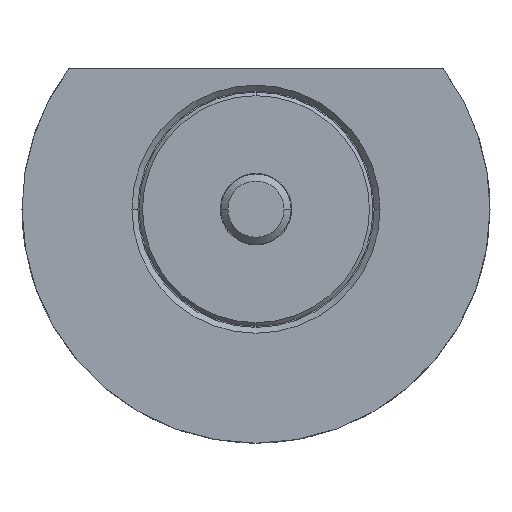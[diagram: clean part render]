
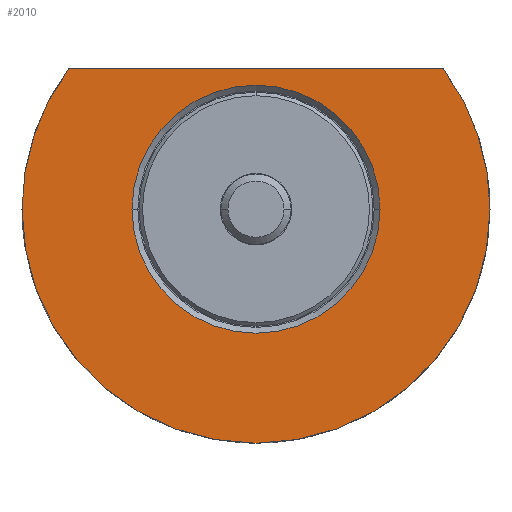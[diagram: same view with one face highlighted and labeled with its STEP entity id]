
A CAD part, front view. The second image highlights one B-rep face of the part: STEP entity #2010.
In plain terms, the highlighted planar face has unit normal (0, -1, 0).
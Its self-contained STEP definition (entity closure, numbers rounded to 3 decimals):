
#8 = EDGE_CURVE ( 'NONE', #1715, #1504, #1705, .T. ) ;
#125 = DIRECTION ( 'NONE',  ( 0., 1., 0. ) ) ;
#147 = CARTESIAN_POINT ( 'NONE',  ( -10.6, -10., 0. ) ) ;
#204 = ORIENTED_EDGE ( 'NONE', *, *, #8, .F. ) ;
#215 = CARTESIAN_POINT ( 'NONE',  ( 0., -10., 0. ) ) ;
#334 = FACE_BOUND ( 'NONE', #1475, .T. ) ;
#338 = EDGE_CURVE ( 'NONE', #1504, #1435, #1509, .T. ) ;
#407 = CARTESIAN_POINT ( 'NONE',  ( 10.6, -10., 0. ) ) ;
#467 = EDGE_CURVE ( 'NONE', #1972, #544, #898, .T. ) ;
#513 = DIRECTION ( 'NONE',  ( 1., 0., 0. ) ) ;
#527 = EDGE_CURVE ( 'NONE', #544, #1972, #1168, .T. ) ;
#544 = VERTEX_POINT ( 'NONE', #407 ) ;
#599 = AXIS2_PLACEMENT_3D ( 'NONE', #2002, #1811, #1209 ) ;
#716 = AXIS2_PLACEMENT_3D ( 'NONE', #215, #815, #1646 ) ;
#726 = ORIENTED_EDGE ( 'NONE', *, *, #467, .T. ) ;
#815 = DIRECTION ( 'NONE',  ( 0., 1., 0. ) ) ;
#832 = CARTESIAN_POINT ( 'NONE',  ( -10.6, -10., 11.999 ) ) ;
#841 = CARTESIAN_POINT ( 'NONE',  ( 0., -10., 0. ) ) ;
#888 = CARTESIAN_POINT ( 'NONE',  ( -20., -10., 0. ) ) ;
#898 = CIRCLE ( 'NONE', #1763, 10.6 ) ;
#942 = ORIENTED_EDGE ( 'NONE', *, *, #338, .F. ) ;
#976 = FACE_OUTER_BOUND ( 'NONE', #1535, .T. ) ;
#1080 = EDGE_CURVE ( 'NONE', #2584, #1435, #2215, .T. ) ;
#1098 = CARTESIAN_POINT ( 'NONE',  ( 0., -10., 0. ) ) ;
#1109 = ORIENTED_EDGE ( 'NONE', *, *, #1919, .F. ) ;
#1120 = DIRECTION ( 'NONE',  ( 0., 1., 0. ) ) ;
#1155 = CARTESIAN_POINT ( 'NONE',  ( 20., -10., 0. ) ) ;
#1164 = PLANE ( 'NONE',  #2603 ) ;
#1168 = CIRCLE ( 'NONE', #599, 10.6 ) ;
#1191 = DIRECTION ( 'NONE',  ( 0., -1., 0. ) ) ;
#1209 = DIRECTION ( 'NONE',  ( -1., 0., 0. ) ) ;
#1218 = DIRECTION ( 'NONE',  ( -1., 0., 0. ) ) ;
#1255 = VECTOR ( 'NONE', #1218, 1000. ) ;
#1435 = VERTEX_POINT ( 'NONE', #1797 ) ;
#1462 = ORIENTED_EDGE ( 'NONE', *, *, #1080, .T. ) ;
#1475 = EDGE_LOOP ( 'NONE', ( #1793, #726 ) ) ;
#1504 = VERTEX_POINT ( 'NONE', #888 ) ;
#1509 = CIRCLE ( 'NONE', #1559, 20. ) ;
#1535 = EDGE_LOOP ( 'NONE', ( #1109, #1462, #942, #204 ) ) ;
#1559 = AXIS2_PLACEMENT_3D ( 'NONE', #841, #1667, #2617 ) ;
#1646 = DIRECTION ( 'NONE',  ( -1., 0., 0. ) ) ;
#1667 = DIRECTION ( 'NONE',  ( 0., 1., 0. ) ) ;
#1705 = CIRCLE ( 'NONE', #716, 20. ) ;
#1715 = VERTEX_POINT ( 'NONE', #1155 ) ;
#1727 = DIRECTION ( 'NONE',  ( -1., 0., 0. ) ) ;
#1763 = AXIS2_PLACEMENT_3D ( 'NONE', #1773, #125, #2161 ) ;
#1773 = CARTESIAN_POINT ( 'NONE',  ( 0., -10., 0. ) ) ;
#1793 = ORIENTED_EDGE ( 'NONE', *, *, #527, .T. ) ;
#1797 = CARTESIAN_POINT ( 'NONE',  ( -16.001, -10., 11.999 ) ) ;
#1811 = DIRECTION ( 'NONE',  ( 0., 1., 0. ) ) ;
#1856 = CIRCLE ( 'NONE', #2016, 20. ) ;
#1919 = EDGE_CURVE ( 'NONE', #2584, #1715, #1856, .T. ) ;
#1972 = VERTEX_POINT ( 'NONE', #2071 ) ;
#2002 = CARTESIAN_POINT ( 'NONE',  ( 0., -10., 0. ) ) ;
#2010 = ADVANCED_FACE ( 'NONE', ( #334, #976 ), #1164, .T. ) ;
#2016 = AXIS2_PLACEMENT_3D ( 'NONE', #1098, #1120, #1727 ) ;
#2071 = CARTESIAN_POINT ( 'NONE',  ( -10.6, -10., 0. ) ) ;
#2161 = DIRECTION ( 'NONE',  ( -1., 0., 0. ) ) ;
#2215 = LINE ( 'NONE', #832, #1255 ) ;
#2355 = CARTESIAN_POINT ( 'NONE',  ( 16.001, -10., 11.999 ) ) ;
#2584 = VERTEX_POINT ( 'NONE', #2355 ) ;
#2603 = AXIS2_PLACEMENT_3D ( 'NONE', #147, #1191, #513 ) ;
#2617 = DIRECTION ( 'NONE',  ( -1., 0., 0. ) ) ;
